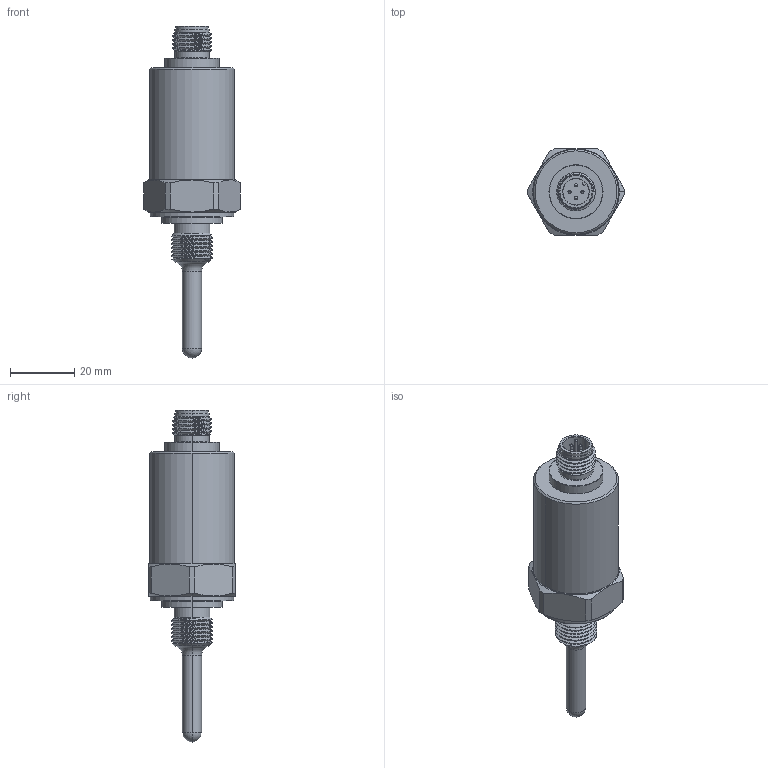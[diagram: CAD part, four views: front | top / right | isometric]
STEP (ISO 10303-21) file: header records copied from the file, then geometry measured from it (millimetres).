
FILE_DESCRIPTION (( 'STEP AP214' ), '1' );
FILE_NAME ('BTS1A51.STEP', '2024-12-03T03:50:10', ( '' ), ( '' ), 'SwSTEP 2.0', 'SolidWorks 2022', '' );
FILE_SCHEMA (( 'AUTOMOTIVE_DESIGN' ));
Length unit declared in the file: millimetre
Products named in the file (1): BTS1A51
Bounding box: 30.18 x 27 x 103.5 mm (x, y, z)
Volume: 29964.6 mm3; surface area: 7596.8 mm2
Topology: 1 solids, 1 shells, 149 faces, 364 edges, 222 vertices
Faces by surface type: cylinder 53, plane 34, cone 26, torus 20, sphere 10, bspline 6
Entity records: 6584 total; most frequent: CARTESIAN_POINT 3024, ORIENTED_EDGE 688, DIRECTION 651, EDGE_CURVE 344, AXIS2_PLACEMENT_3D 280, VERTEX_POINT 212, EDGE_LOOP 164, ADVANCED_FACE 149
